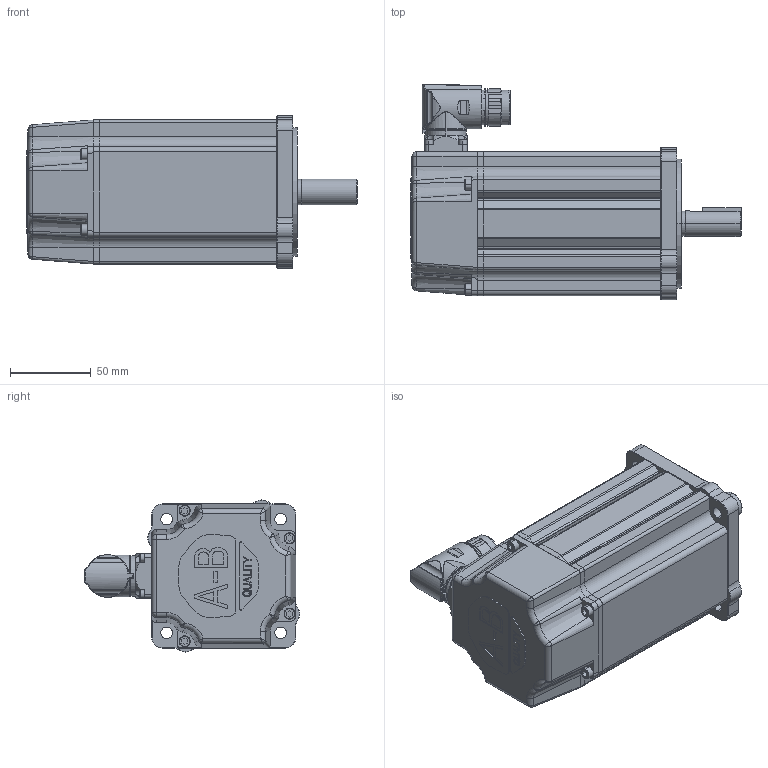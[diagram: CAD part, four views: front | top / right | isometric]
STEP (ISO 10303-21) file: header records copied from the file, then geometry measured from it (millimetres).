
FILE_DESCRIPTION (( 'STEP AP214' ), '1' );
FILE_NAME ('Rockwell Automation-$PARTNUMBER.STEP', '2014-07-25T13:50:33', ( 'Windows User' ), ( '' ), 'SwSTEP 2.0', 'SolidWorks 2014', '' );
FILE_SCHEMA (( 'AUTOMOTIVE_DESIGN' ));
Length unit declared in the file: inch
Products named in the file (4): Rockwell Automation-$PARTNUMBER_Rockwell Automation-VPF-x1001x-xJx4xx_Connector; Rockwell Automation-$PARTNUMBER_Rockwell Automation-VPF-x1001x-xJx4xx_VPF-100-Shaft_1001-SHAFT-KEYED-BRAKE; Rockwell Automation-$PARTNUMBER_Rockwell Automation-VPF-x1001x-xJx4xx_VPF-100-Body_1001-Brake; Rockwell Automation-$PARTNUMBER
Assembly tree (3 placements, depth 2):
  Rockwell Automation-$PARTNUMBER
    Rockwell Automation-$PARTNUMBER_Rockwell Automation-VPF-x1001x-xJx4xx_VPF-100-Body_1001-Brake
    Rockwell Automation-$PARTNUMBER_Rockwell Automation-VPF-x1001x-xJx4xx_VPF-100-Shaft_1001-SHAFT-KEYED-BRAKE
    Rockwell Automation-$PARTNUMBER_Rockwell Automation-VPF-x1001x-xJx4xx_Connector
Bounding box: 205.1 x 133.69 x 94.41 mm (x, y, z)
Volume: 465352.4 mm3; surface area: 167324.4 mm2
Topology: 8 solids, 8 shells, 1047 faces, 2593 edges, 1635 vertices
Faces by surface type: plane 462, cylinder 340, cone 93, bspline 92, torus 40, sphere 20
Entity records: 52527 total; most frequent: CARTESIAN_POINT 14180, ORIENTED_EDGE 5142, DIRECTION 5115, EDGE_CURVE 2571, AXIS2_PLACEMENT_3D 1835, VERTEX_POINT 1635, LINE 1445, VECTOR 1445
